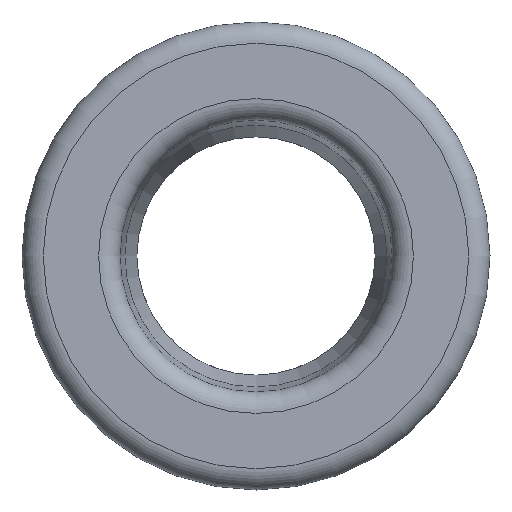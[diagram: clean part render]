
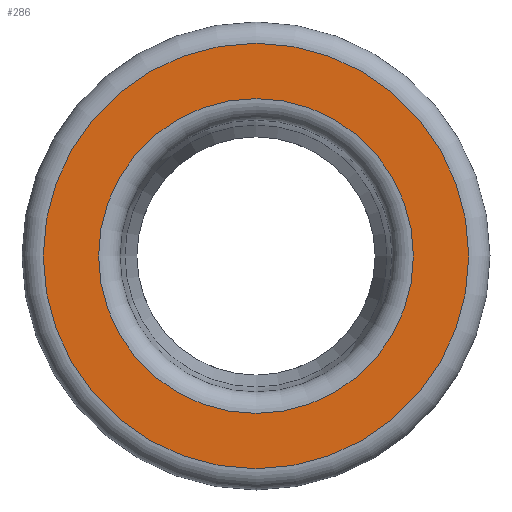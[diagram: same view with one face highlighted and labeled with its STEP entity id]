
A CAD part, left-side view. The second image highlights one B-rep face of the part: STEP entity #286.
In plain terms, the highlighted planar face has unit normal (-1, 0, 0).
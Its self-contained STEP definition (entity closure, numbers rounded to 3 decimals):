
#50=FACE_BOUND($,#109,.T.);
#51=FACE_BOUND($,#110,.T.);
#109=EDGE_LOOP($,(#232));
#110=EDGE_LOOP($,(#233));
#136=CIRCLE($,#331,18.5);
#137=CIRCLE($,#333,25.);
#160=VERTEX_POINT($,#520);
#161=VERTEX_POINT($,#523);
#185=EDGE_CURVE($,#160,#160,#136,.T.);
#186=EDGE_CURVE($,#161,#161,#137,.T.);
#232=ORIENTED_EDGE($,*,*,#185,.T.);
#233=ORIENTED_EDGE($,*,*,#186,.F.);
#243=PLANE($,#332);
#286=ADVANCED_FACE($,(#50,#51),#243,.T.);
#331=AXIS2_PLACEMENT_3D($,#521,#417,#418);
#332=AXIS2_PLACEMENT_3D($,#522,#419,#420);
#333=AXIS2_PLACEMENT_3D($,#524,#421,#422);
#417=DIRECTION('center_axis',(1.,0.,0.));
#418=DIRECTION('ref_axis',(0.,0.,-1.));
#419=DIRECTION('center_axis',(-1.,0.,0.));
#420=DIRECTION('ref_axis',(0.,0.,1.));
#421=DIRECTION('center_axis',(1.,0.,0.));
#422=DIRECTION('ref_axis',(0.,0.,-1.));
#520=CARTESIAN_POINT('',(0.,18.5,0.));
#521=CARTESIAN_POINT('Origin',(0.,0.,0.));
#522=CARTESIAN_POINT('Origin',(0.,25.,0.));
#523=CARTESIAN_POINT('',(0.,25.,0.));
#524=CARTESIAN_POINT('Origin',(0.,0.,0.));
